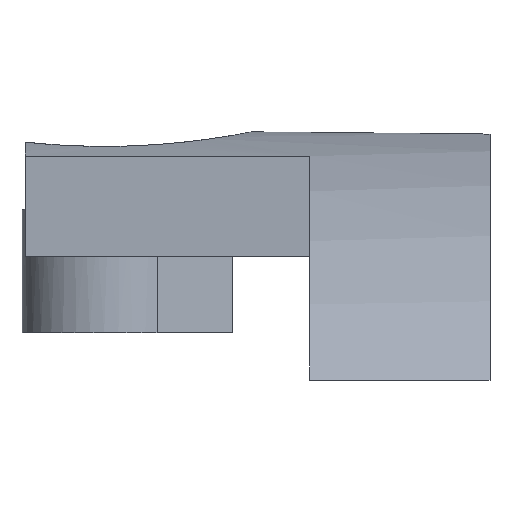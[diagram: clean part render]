
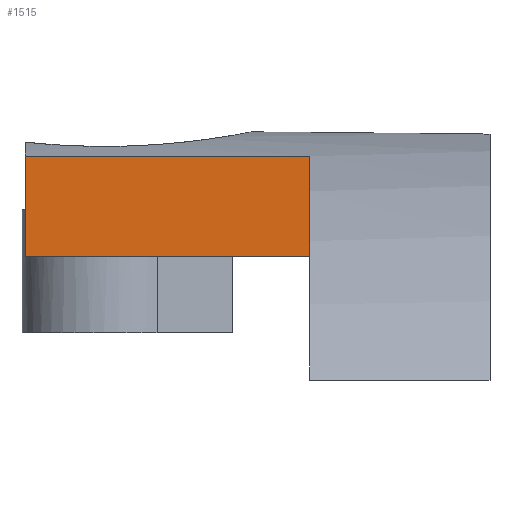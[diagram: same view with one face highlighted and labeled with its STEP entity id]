
A CAD part, front view. The second image highlights one B-rep face of the part: STEP entity #1515.
In plain terms, the highlighted planar face has unit normal (0, -1, 0).
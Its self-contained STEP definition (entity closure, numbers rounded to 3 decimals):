
#33 = CYLINDRICAL_SURFACE('',#34,23.85);
#34 = AXIS2_PLACEMENT_3D('',#35,#36,#37);
#35 = CARTESIAN_POINT('',(194.,0.,0.));
#36 = DIRECTION('',(1.,0.,0.));
#37 = DIRECTION('',(-0.,0.,1.));
#98 = PLANE('',#99);
#99 = AXIS2_PLACEMENT_3D('',#100,#101,#102);
#100 = CARTESIAN_POINT('',(185.,0.,0.));
#101 = DIRECTION('',(1.,0.,0.));
#102 = DIRECTION('',(-0.,0.,1.));
#368 = VERTEX_POINT('',#369);
#369 = CARTESIAN_POINT('',(185.,-6.,23.083));
#390 = EDGE_CURVE('',#368,#391,#393,.T.);
#391 = VERTEX_POINT('',#392);
#392 = CARTESIAN_POINT('',(194.,-6.,23.083));
#393 = SURFACE_CURVE('',#394,(#398,#404),.PCURVE_S1.);
#394 = LINE('',#395,#396);
#395 = CARTESIAN_POINT('',(185.,-6.,23.083));
#396 = VECTOR('',#397,1.);
#397 = DIRECTION('',(1.,0.,0.));
#398 = PCURVE('',#33,#399);
#399 = DEFINITIONAL_REPRESENTATION('',(#400),#403);
#400 = B_SPLINE_CURVE_WITH_KNOTS('',1,(#401,#402),.UNSPECIFIED.,.F.,.F.,
  (2,2),(0.,9.),.PIECEWISE_BEZIER_KNOTS.);
#401 = CARTESIAN_POINT('',(6.537,-9.));
#402 = CARTESIAN_POINT('',(6.537,0.));
#403 = ( GEOMETRIC_REPRESENTATION_CONTEXT(2) 
PARAMETRIC_REPRESENTATION_CONTEXT() REPRESENTATION_CONTEXT('2D SPACE',''
  ) );
#404 = PCURVE('',#405,#410);
#405 = PLANE('',#406);
#406 = AXIS2_PLACEMENT_3D('',#407,#408,#409);
#407 = CARTESIAN_POINT('',(185.,-6.,0.));
#408 = DIRECTION('',(-0.,1.,0.));
#409 = DIRECTION('',(0.,0.,1.));
#410 = DEFINITIONAL_REPRESENTATION('',(#411),#414);
#411 = B_SPLINE_CURVE_WITH_KNOTS('',1,(#412,#413),.UNSPECIFIED.,.F.,.F.,
  (2,2),(0.,9.),.PIECEWISE_BEZIER_KNOTS.);
#412 = CARTESIAN_POINT('',(23.083,0.));
#413 = CARTESIAN_POINT('',(23.083,9.));
#414 = ( GEOMETRIC_REPRESENTATION_CONTEXT(2) 
PARAMETRIC_REPRESENTATION_CONTEXT() REPRESENTATION_CONTEXT('2D SPACE',''
  ) );
#432 = PLANE('',#433);
#433 = AXIS2_PLACEMENT_3D('',#434,#435,#436);
#434 = CARTESIAN_POINT('',(194.,0.,0.));
#435 = DIRECTION('',(1.,0.,0.));
#436 = DIRECTION('',(-0.,0.,1.));
#568 = CYLINDRICAL_SURFACE('',#569,20.8);
#569 = AXIS2_PLACEMENT_3D('',#570,#571,#572);
#570 = CARTESIAN_POINT('',(193.,0.,0.));
#571 = DIRECTION('',(1.,0.,0.));
#572 = DIRECTION('',(-0.,0.,1.));
#928 = VERTEX_POINT('',#929);
#929 = CARTESIAN_POINT('',(185.,-6.,19.916));
#950 = EDGE_CURVE('',#928,#951,#953,.T.);
#951 = VERTEX_POINT('',#952);
#952 = CARTESIAN_POINT('',(194.,-6.,19.916));
#953 = SURFACE_CURVE('',#954,(#958,#964),.PCURVE_S1.);
#954 = LINE('',#955,#956);
#955 = CARTESIAN_POINT('',(184.,-6.,19.916));
#956 = VECTOR('',#957,1.);
#957 = DIRECTION('',(1.,0.,0.));
#958 = PCURVE('',#568,#959);
#959 = DEFINITIONAL_REPRESENTATION('',(#960),#963);
#960 = B_SPLINE_CURVE_WITH_KNOTS('',1,(#961,#962),.UNSPECIFIED.,.F.,.F.,
  (2,2),(1.,10.),.PIECEWISE_BEZIER_KNOTS.);
#961 = CARTESIAN_POINT('',(6.576,-8.));
#962 = CARTESIAN_POINT('',(6.576,1.));
#963 = ( GEOMETRIC_REPRESENTATION_CONTEXT(2) 
PARAMETRIC_REPRESENTATION_CONTEXT() REPRESENTATION_CONTEXT('2D SPACE',''
  ) );
#964 = PCURVE('',#405,#965);
#965 = DEFINITIONAL_REPRESENTATION('',(#966),#969);
#966 = B_SPLINE_CURVE_WITH_KNOTS('',1,(#967,#968),.UNSPECIFIED.,.F.,.F.,
  (2,2),(1.,10.),.PIECEWISE_BEZIER_KNOTS.);
#967 = CARTESIAN_POINT('',(19.916,0.));
#968 = CARTESIAN_POINT('',(19.916,9.));
#969 = ( GEOMETRIC_REPRESENTATION_CONTEXT(2) 
PARAMETRIC_REPRESENTATION_CONTEXT() REPRESENTATION_CONTEXT('2D SPACE',''
  ) );
#1492 = EDGE_CURVE('',#951,#391,#1493,.T.);
#1493 = SURFACE_CURVE('',#1494,(#1498,#1505),.PCURVE_S1.);
#1494 = LINE('',#1495,#1496);
#1495 = CARTESIAN_POINT('',(194.,-6.,0.));
#1496 = VECTOR('',#1497,1.);
#1497 = DIRECTION('',(0.,0.,1.));
#1498 = PCURVE('',#432,#1499);
#1499 = DEFINITIONAL_REPRESENTATION('',(#1500),#1504);
#1500 = LINE('',#1501,#1502);
#1501 = CARTESIAN_POINT('',(0.,6.));
#1502 = VECTOR('',#1503,1.);
#1503 = DIRECTION('',(1.,0.));
#1504 = ( GEOMETRIC_REPRESENTATION_CONTEXT(2) 
PARAMETRIC_REPRESENTATION_CONTEXT() REPRESENTATION_CONTEXT('2D SPACE',''
  ) );
#1505 = PCURVE('',#405,#1506);
#1506 = DEFINITIONAL_REPRESENTATION('',(#1507),#1511);
#1507 = LINE('',#1508,#1509);
#1508 = CARTESIAN_POINT('',(0.,9.));
#1509 = VECTOR('',#1510,1.);
#1510 = DIRECTION('',(1.,0.));
#1511 = ( GEOMETRIC_REPRESENTATION_CONTEXT(2) 
PARAMETRIC_REPRESENTATION_CONTEXT() REPRESENTATION_CONTEXT('2D SPACE',''
  ) );
#1515 = ADVANCED_FACE('',(#1516),#405,.F.);
#1516 = FACE_BOUND('',#1517,.F.);
#1517 = EDGE_LOOP('',(#1518,#1519,#1520,#1541));
#1518 = ORIENTED_EDGE('',*,*,#1492,.F.);
#1519 = ORIENTED_EDGE('',*,*,#950,.F.);
#1520 = ORIENTED_EDGE('',*,*,#1521,.T.);
#1521 = EDGE_CURVE('',#928,#368,#1522,.T.);
#1522 = SURFACE_CURVE('',#1523,(#1527,#1534),.PCURVE_S1.);
#1523 = LINE('',#1524,#1525);
#1524 = CARTESIAN_POINT('',(185.,-6.,0.));
#1525 = VECTOR('',#1526,1.);
#1526 = DIRECTION('',(0.,0.,1.));
#1527 = PCURVE('',#405,#1528);
#1528 = DEFINITIONAL_REPRESENTATION('',(#1529),#1533);
#1529 = LINE('',#1530,#1531);
#1530 = CARTESIAN_POINT('',(0.,0.));
#1531 = VECTOR('',#1532,1.);
#1532 = DIRECTION('',(1.,0.));
#1533 = ( GEOMETRIC_REPRESENTATION_CONTEXT(2) 
PARAMETRIC_REPRESENTATION_CONTEXT() REPRESENTATION_CONTEXT('2D SPACE',''
  ) );
#1534 = PCURVE('',#98,#1535);
#1535 = DEFINITIONAL_REPRESENTATION('',(#1536),#1540);
#1536 = LINE('',#1537,#1538);
#1537 = CARTESIAN_POINT('',(0.,6.));
#1538 = VECTOR('',#1539,1.);
#1539 = DIRECTION('',(1.,0.));
#1540 = ( GEOMETRIC_REPRESENTATION_CONTEXT(2) 
PARAMETRIC_REPRESENTATION_CONTEXT() REPRESENTATION_CONTEXT('2D SPACE',''
  ) );
#1541 = ORIENTED_EDGE('',*,*,#390,.T.);
